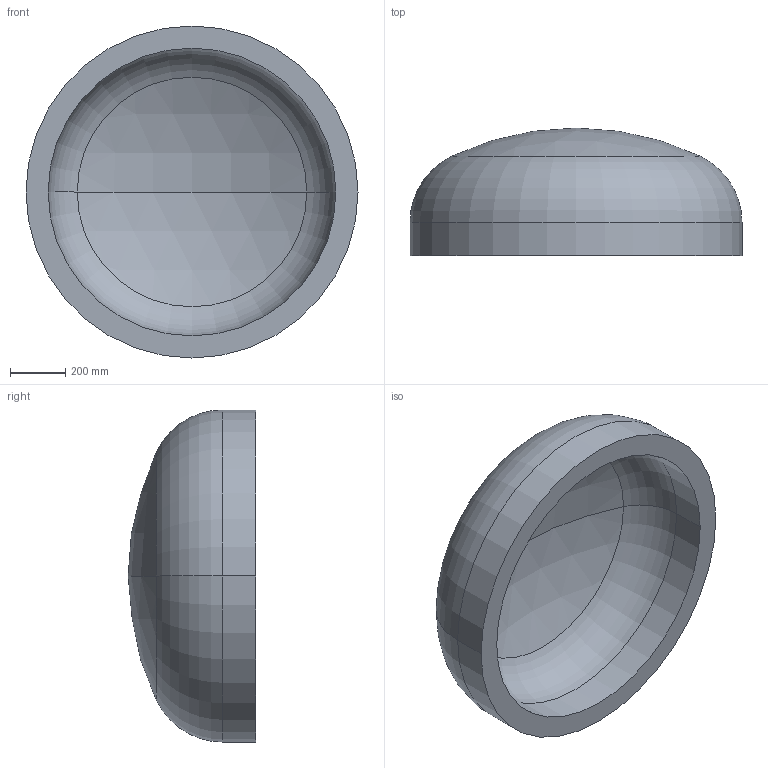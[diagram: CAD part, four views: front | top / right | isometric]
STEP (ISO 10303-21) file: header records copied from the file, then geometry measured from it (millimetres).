
FILE_DESCRIPTION (( 'STEP AP203' ), '1' );
FILE_NAME ('DIN 28013 Korbbogenform_-_Boden DIN 28013 - 1200 x 120 - I - s=80.step', '2016-07-01T09:35:07', ( '' ), ( '' ), 'SwSTEP 2.0', 'SolidWorks 2013', '' );
FILE_SCHEMA (( 'CONFIG_CONTROL_DESIGN' ));
Length unit declared in the file: millimetre
Products named in the file (1): DIN 28013 Korbbogenform_-_Boden DIN 28013 - 1200 x 120 - I - s=80
Bounding box: 1200 x 461.14 x 1200 mm (x, y, z)
Volume: 148957185.2 mm3; surface area: 4018819.7 mm2
Topology: 1 solids, 1 shells, 13 faces, 24 edges, 14 vertices
Faces by surface type: torus 4, cylinder 4, sphere 4, plane 1
Entity records: 407 total; most frequent: DIRECTION 72, CARTESIAN_POINT 52, ORIENTED_EDGE 48, AXIS2_PLACEMENT_3D 34, EDGE_CURVE 24, CIRCLE 20, EDGE_LOOP 14, VERTEX_POINT 14
